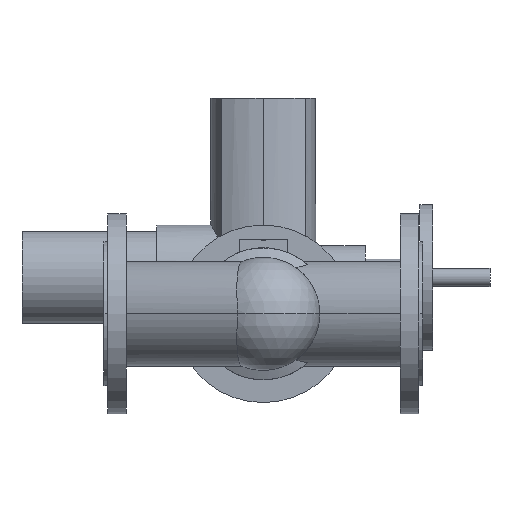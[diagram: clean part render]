
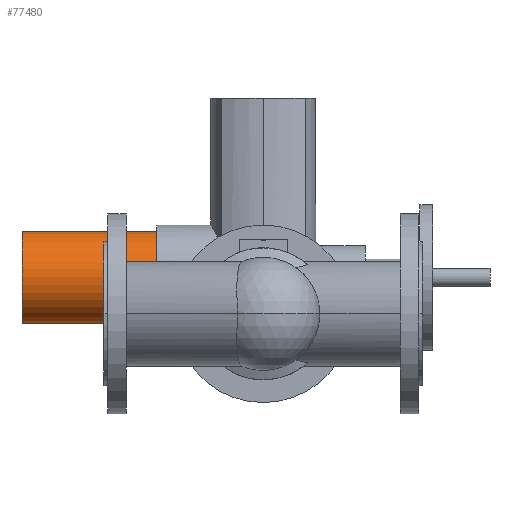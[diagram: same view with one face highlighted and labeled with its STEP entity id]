
A CAD part, front view. The second image highlights one B-rep face of the part: STEP entity #77480.
In plain terms, the highlighted cylindrical face has radius 50.5 mm (diameter 101 mm), a partial arc.
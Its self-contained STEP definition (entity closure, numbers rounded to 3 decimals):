
#62500=CARTESIAN_POINT('',(-16.,470.,40.));
#62510=DIRECTION('',(1.,0.,0.));
#62520=DIRECTION('',(0.,0.,-1.));
#62530=AXIS2_PLACEMENT_3D('',#62500,#62510,#62520);
#62540=CYLINDRICAL_SURFACE('',#62530,50.5);
#62550=CARTESIAN_POINT('',(-16.,470.,-10.5));
#62560=DIRECTION('',(1.,0.,0.));
#62570=VECTOR('',#62560,1.);
#62580=LINE('',#62550,#62570);
#62590=CARTESIAN_POINT('',(-90.,470.,-10.5));
#62600=VERTEX_POINT('',#62590);
#62610=CARTESIAN_POINT('',(58.,470.,-10.5));
#62620=VERTEX_POINT('',#62610);
#62630=EDGE_CURVE('',#62600,#62620,#62580,.T.);
#62650=CARTESIAN_POINT('',(58.,470.,40.));
#62660=DIRECTION('',(-1.,0.,0.));
#62670=DIRECTION('',(0.,0.,-1.));
#62680=AXIS2_PLACEMENT_3D('',#62650,#62660,#62670);
#62690=CIRCLE('',#62680,50.5);
#62700=CARTESIAN_POINT('',(58.,470.,90.5));
#62710=VERTEX_POINT('',#62700);
#62740=CARTESIAN_POINT('',(-16.,470.,90.5));
#62750=DIRECTION('',(1.,0.,0.));
#62760=VECTOR('',#62750,1.);
#62770=LINE('',#62740,#62760);
#62780=CARTESIAN_POINT('',(-90.,470.,90.5));
#62790=VERTEX_POINT('',#62780);
#62800=EDGE_CURVE('',#62790,#62710,#62770,.T.);
#62820=CARTESIAN_POINT('',(-90.,470.,40.));
#62830=DIRECTION('',(-1.,0.,0.));
#62840=DIRECTION('',(0.,0.,-1.));
#62850=AXIS2_PLACEMENT_3D('',#62820,#62830,#62840);
#62860=CIRCLE('',#62850,50.5);
#73070=EDGE_CURVE('',#62600,#62790,#62860,.T.);
#77080=EDGE_CURVE('',#62620,#62710,#62690,.T.);
#77420=ORIENTED_EDGE('',*,*,#73070,.F.);
#77430=ORIENTED_EDGE('',*,*,#62800,.F.);
#77440=ORIENTED_EDGE('',*,*,#77080,.T.);
#77450=ORIENTED_EDGE('',*,*,#62630,.T.);
#77460=EDGE_LOOP('',(#77450,#77440,#77430,#77420));
#77470=FACE_OUTER_BOUND('',#77460,.T.);
#77480=ADVANCED_FACE('',(#77470),#62540,.T.);
